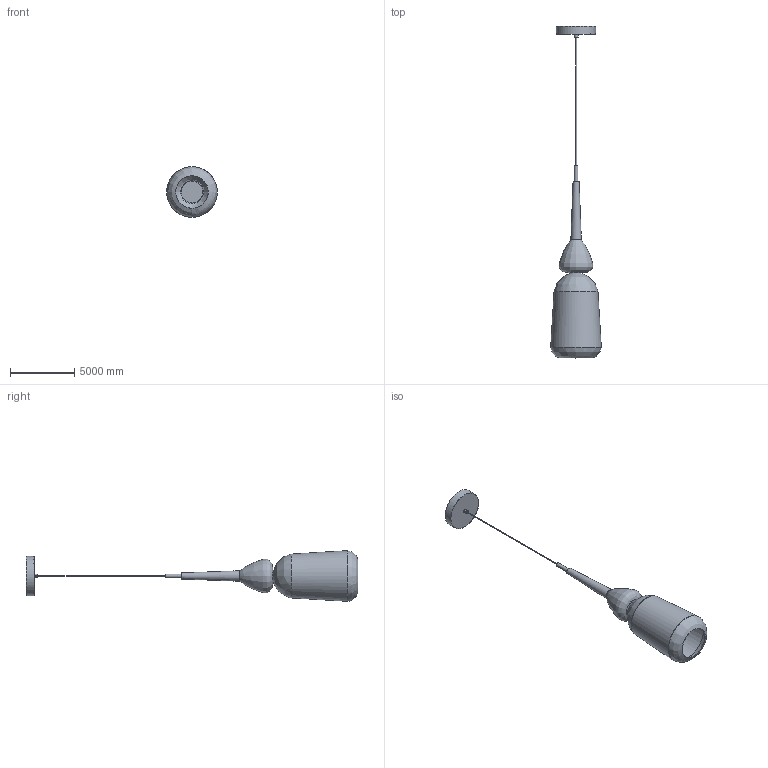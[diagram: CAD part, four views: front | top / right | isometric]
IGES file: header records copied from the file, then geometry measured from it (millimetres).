
Global section: file name: Cambell Pendant Light-Model E ; native system: AutoCAD 2022 - 简体中文 (Simplified Chinese),62HAuto; preprocessor: desk Translation Framework DWG producer (atf_dwg_producer); organization: unknown; date: 20250411.084923; units: inch
Bounding box: 3932.09 x 25745.9 x 3932.08 mm (x, y, z)
Volume: 4342069925.6 mm3; surface area: 273746633.4 mm2
Topology: 14 solids, 14 shells, 69 faces, 138 edges, 104 vertices
Faces by surface type: bspline 69
